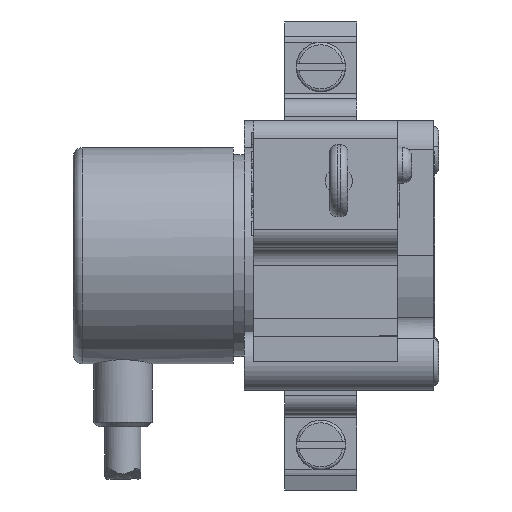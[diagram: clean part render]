
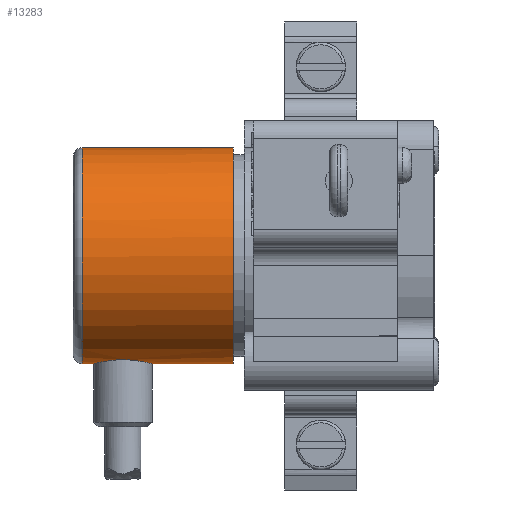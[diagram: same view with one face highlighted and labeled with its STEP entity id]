
A CAD part, top view. The second image highlights one B-rep face of the part: STEP entity #13283.
In plain terms, the highlighted cylindrical face has radius 12 mm (diameter 24 mm), a partial arc.
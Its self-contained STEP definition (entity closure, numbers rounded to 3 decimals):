
#4203=CARTESIAN_POINT('',(-22.2,0.,0.));
#4204=DIRECTION('',(-1.,0.,0.));
#4205=DIRECTION('',(0.,-1.,-0.002));
#4206=AXIS2_PLACEMENT_3D('',#4203,#4204,#4205);
#4223=DIRECTION('',(1.,0.,0.));
#4224=VECTOR('',#4223,16.8);
#4225=CARTESIAN_POINT('',(-39.,12.,0.025));
#4226=LINE('',#4225,#4224);
#4232=CARTESIAN_POINT('',(-37.75,-12.,-0.025));
#4233=CARTESIAN_POINT('',(-37.75,-12.,
0.188));
#4234=CARTESIAN_POINT('',(-37.708,-11.99,
0.615));
#4235=CARTESIAN_POINT('',(-37.516,-11.941,
1.242));
#4236=CARTESIAN_POINT('',(-37.206,-11.866,
1.815));
#4237=CARTESIAN_POINT('',(-36.778,-11.775,
2.327));
#4238=CARTESIAN_POINT('',(-36.233,-11.682,
2.752));
#4239=CARTESIAN_POINT('',(-35.667,-11.612,
3.028));
#4240=CARTESIAN_POINT('',(-35.098,-11.568,
3.193));
#4241=CARTESIAN_POINT('',(-34.423,-11.553,
3.243));
#4242=CARTESIAN_POINT('',(-33.909,-11.57,
3.187));
#4243=CARTESIAN_POINT('',(-33.311,-11.613,
3.025));
#4244=CARTESIAN_POINT('',(-32.726,-11.689,
2.722));
#4245=CARTESIAN_POINT('',(-32.247,-11.771,
2.345));
#4246=CARTESIAN_POINT('',(-31.811,-11.862,
1.843));
#4247=CARTESIAN_POINT('',(-31.481,-11.941,
1.24));
#4248=CARTESIAN_POINT('',(-31.291,-11.99,
0.61));
#4249=CARTESIAN_POINT('',(-31.25,-12.,0.184));
#4250=CARTESIAN_POINT('',(-31.25,-12.,-0.025));
#4313=DIRECTION('',(1.,0.,0.));
#4314=VECTOR('',#4313,9.05);
#4315=CARTESIAN_POINT('',(-31.25,-12.,-0.025));
#4316=LINE('',#4315,#4314);
#4317=DIRECTION('',(1.,0.,0.));
#4318=VECTOR('',#4317,1.25);
#4319=CARTESIAN_POINT('',(-39.,-12.,-0.025));
#4320=LINE('',#4319,#4318);
#4356=CARTESIAN_POINT('',(-39.,0.,0.));
#4357=DIRECTION('',(1.,0.,0.));
#4358=DIRECTION('',(0.,1.,0.002));
#4359=AXIS2_PLACEMENT_3D('',#4356,#4357,#4358);
#4361=CARTESIAN_POINT('',(-39.,0.,0.));
#4362=DIRECTION('',(1.,0.,0.));
#4363=DIRECTION('',(0.,1.,0.02));
#4364=AXIS2_PLACEMENT_3D('',#4361,#4362,#4363);
#8033=CARTESIAN_POINT('',(-22.2,-12.,-0.025));
#8034=CARTESIAN_POINT('',(-22.2,12.,0.025));
#8035=VERTEX_POINT('',#8033);
#8036=VERTEX_POINT('',#8034);
#8037=VERTEX_POINT('',#4232);
#8038=VERTEX_POINT('',#4250);
#8039=CARTESIAN_POINT('',(-39.,-12.,-0.025));
#8040=VERTEX_POINT('',#8039);
#8041=CARTESIAN_POINT('',(-39.,11.998,0.243));
#8042=VERTEX_POINT('',#8041);
#8043=CARTESIAN_POINT('',(-39.,12.,0.025));
#8044=VERTEX_POINT('',#8043);
#13263=CARTESIAN_POINT('',(-40.,0.,0.));
#13264=DIRECTION('',(1.,0.,0.));
#13265=DIRECTION('',(0.,-1.,-0.002));
#13266=AXIS2_PLACEMENT_3D('',#13263,#13264,#13265);
#13267=CYLINDRICAL_SURFACE('',#13266,12.);
#13269=ORIENTED_EDGE('',*,*,#13268,.F.);
#13271=ORIENTED_EDGE('',*,*,#13270,.F.);
#13273=ORIENTED_EDGE('',*,*,#13272,.F.);
#13275=ORIENTED_EDGE('',*,*,#13274,.F.);
#13277=ORIENTED_EDGE('',*,*,#13276,.T.);
#13278=ORIENTED_EDGE('',*,*,#13252,.F.);
#13280=ORIENTED_EDGE('',*,*,#13279,.F.);
#13281=EDGE_LOOP('',(#13269,#13271,#13273,#13275,#13277,#13278,#13280));
#13282=FACE_OUTER_BOUND('',#13281,.F.);
#13283=ADVANCED_FACE('',(#13282),#13267,.T.);
#4207=CIRCLE('',#4206,12.);
#4251=B_SPLINE_CURVE_WITH_KNOTS('',3,(#4232,#4233,#4234,#4235,#4236,#4237,#4238,
#4239,#4240,#4241,#4242,#4243,#4244,#4245,#4246,#4247,#4248,#4249,#4250),
.UNSPECIFIED.,.F.,.F.,(4,1,1,1,1,1,1,1,1,1,1,1,1,1,1,1,4),(0.,0.063,0.125,
0.188,0.25,0.313,0.375,0.438,0.5,0.563,0.625,0.688,
0.75,0.813,0.875,0.938,1.),.UNSPECIFIED.);
#4360=CIRCLE('',#4359,12.);
#4365=CIRCLE('',#4364,12.);
#13252=EDGE_CURVE('',#8035,#8036,#4207,.T.);
#13268=EDGE_CURVE('',#8037,#8038,#4251,.T.);
#13270=EDGE_CURVE('',#8040,#8037,#4320,.T.);
#13272=EDGE_CURVE('',#8042,#8040,#4365,.T.);
#13274=EDGE_CURVE('',#8044,#8042,#4360,.T.);
#13276=EDGE_CURVE('',#8044,#8036,#4226,.T.);
#13279=EDGE_CURVE('',#8038,#8035,#4316,.T.);
